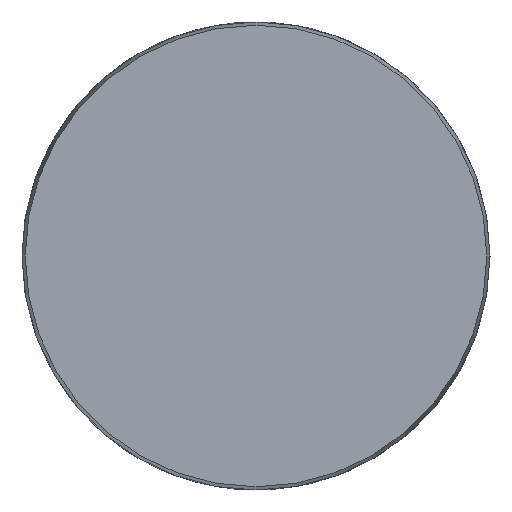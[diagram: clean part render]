
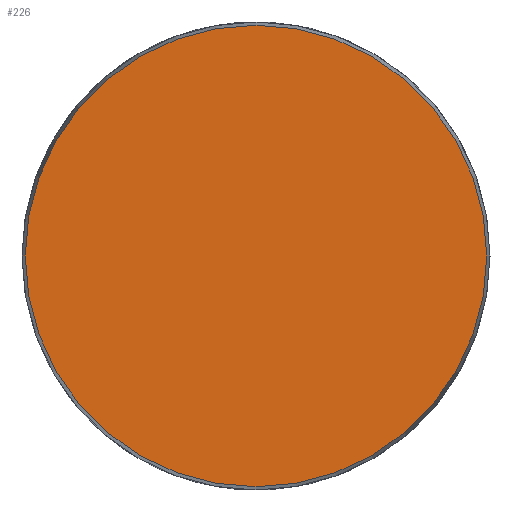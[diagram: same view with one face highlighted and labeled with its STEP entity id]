
A CAD part, left-side view. The second image highlights one B-rep face of the part: STEP entity #226.
In plain terms, the highlighted planar face has unit normal (-1, 0, 0).
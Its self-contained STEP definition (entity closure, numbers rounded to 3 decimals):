
#24=PLANE('',#275);
#38=FACE_OUTER_BOUND('',#51,.T.);
#51=EDGE_LOOP('',(#192));
#87=CIRCLE('',#276,24.65);
#106=VERTEX_POINT('',#438);
#135=EDGE_CURVE('',#106,#106,#87,.T.);
#192=ORIENTED_EDGE('',*,*,#135,.F.);
#226=ADVANCED_FACE('',(#38),#24,.T.);
#275=AXIS2_PLACEMENT_3D('',#437,#342,#343);
#276=AXIS2_PLACEMENT_3D('',#439,#344,#345);
#342=DIRECTION('center_axis',(-1.,0.,0.));
#343=DIRECTION('ref_axis',(0.,0.,1.));
#344=DIRECTION('center_axis',(1.,0.,0.));
#345=DIRECTION('ref_axis',(0.,0.,-1.));
#437=CARTESIAN_POINT('Origin',(0.,24.65,0.));
#438=CARTESIAN_POINT('',(0.,-24.65,0.));
#439=CARTESIAN_POINT('Origin',(0.,0.,0.));
